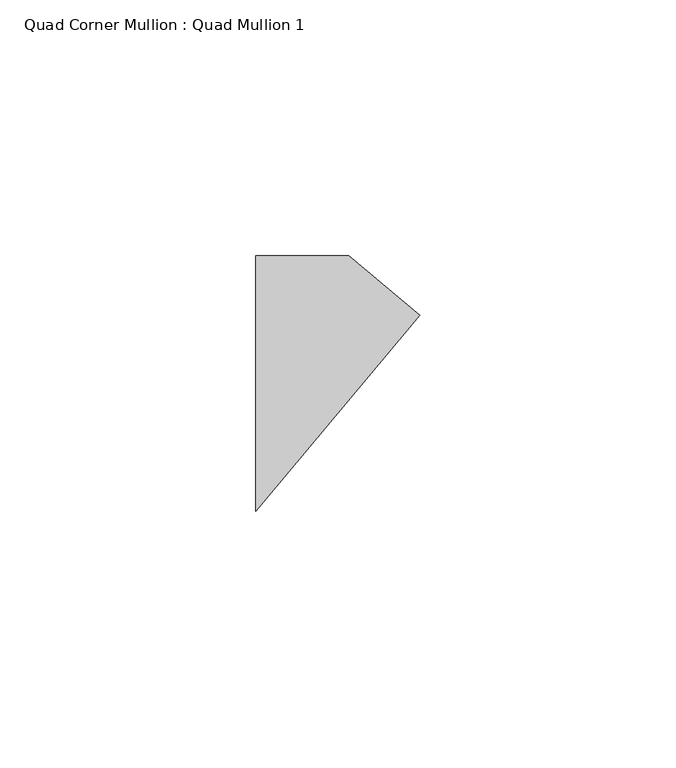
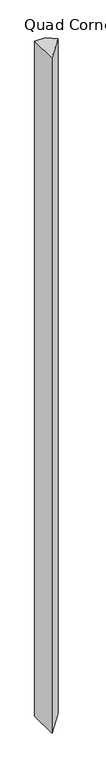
"""IFC4 building model written with IfcOpenShell, lengths in millimetres: member geometry, Quad Corner Mullion : Quad Mullion 1."""

from ifc_helpers import new_model, si_unit, frame, origin, place, context, project, spatial, polyline, outline, extrude, source, transform, mapped, element, save


def quad_corner_mullion_quad_mullion_1_3860153c(model_context):
    return source(origin(), model_context, "Body", "SweptSolid", [
        extrude(outline(polyline([(23.0401246, 13.3022222), (-9.0992559, -25.0), (-9.0992559, 25.0), (9.0992559, 25.0), (23.0401246, 13.3022222)])), frame((0.0, 0.0, -1200.0), z_axis=(0.0, 0.0, 1.0), x_axis=(1.0, 0.0, 0.0)), (0.0, 0.0, 1.0), 1200.0),
    ])


if __name__ == "__main__":
    model = new_model("IFC4")
    model_context = context("Model", 3, world=origin())
    ifc_project = project(units=[si_unit("LENGTHUNIT", "METRE", prefix="MILLI")], contexts=[model_context])
    site = spatial("IfcSite", under=ifc_project)
    building = spatial("IfcBuilding", under=site)
    placement = place(None, origin())
    quad_corner_mullion_quad_mullion_1_shape = quad_corner_mullion_quad_mullion_1_3860153c(model_context)
    element("IfcMember", 1, ObjectType="Quad Corner Mullion : Quad Mullion 1", at=placement, inside=building, context=model_context, shape_type="MappedRepresentation", body=[
        mapped(quad_corner_mullion_quad_mullion_1_shape, transform((0.0, 0.0, 0.0), x_axis=(1.0, 0.0, 0.0), y_axis=(0.0, 1.0, 0.0), z_axis=(0.0, 0.0, 1.0))),
    ])
    save(model, "model.ifc")
